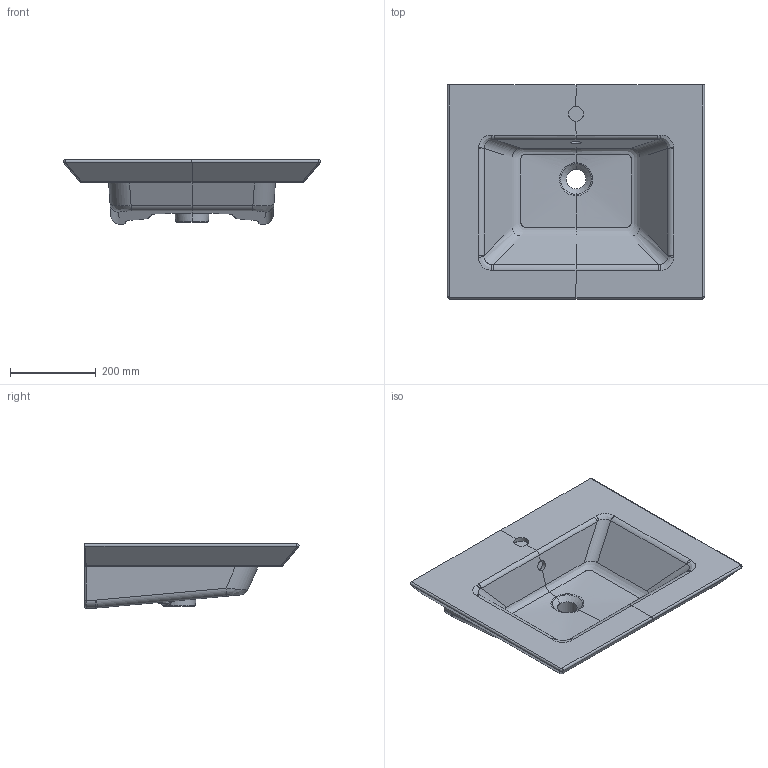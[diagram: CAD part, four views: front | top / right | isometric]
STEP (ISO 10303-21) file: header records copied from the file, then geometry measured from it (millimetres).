
FILE_DESCRIPTION(/* description */ (''),/* implementation_level */ '2;1');
FILE_NAME(/* name */ '415160_Lagato_VWB_60.stp',/* time_stamp */ '2019-02-15T14:49:07+01:00',/* author */ (''),/* organization */ (''),/* preprocessor_version */ 'ST-DEVELOPER v16',/* originating_system */ 'SIEMENS PLM Software NX 10.0',/* authorisation */ '');
FILE_SCHEMA (('AUTOMOTIVE_DESIGN { 1 0 10303 214 3 1 1 1 }'));
Length unit declared in the file: millimetre
Products named in the file (1): math27F85B32yfmg
Bounding box: 600.92 x 500.46 x 150 mm (x, y, z)
Volume: 15000835.8 mm3; surface area: 849963.2 mm2
Topology: 1 solids, 1 shells, 234 faces, 633 edges, 392 vertices
Faces by surface type: bspline 138, cylinder 48, plane 35, extrusion 9, cone 2, sphere 2
Full cylindrical faces by diameter (mm): 35 x1, 46 x1
Entity records: 19851 total; most frequent: CARTESIAN_POINT 15532, ORIENTED_EDGE 1240, EDGE_CURVE 620, B_SPLINE_CURVE_WITH_KNOTS 401, DIRECTION 400, VERTEX_POINT 391, EDGE_LOOP 239, ADVANCED_FACE 234
